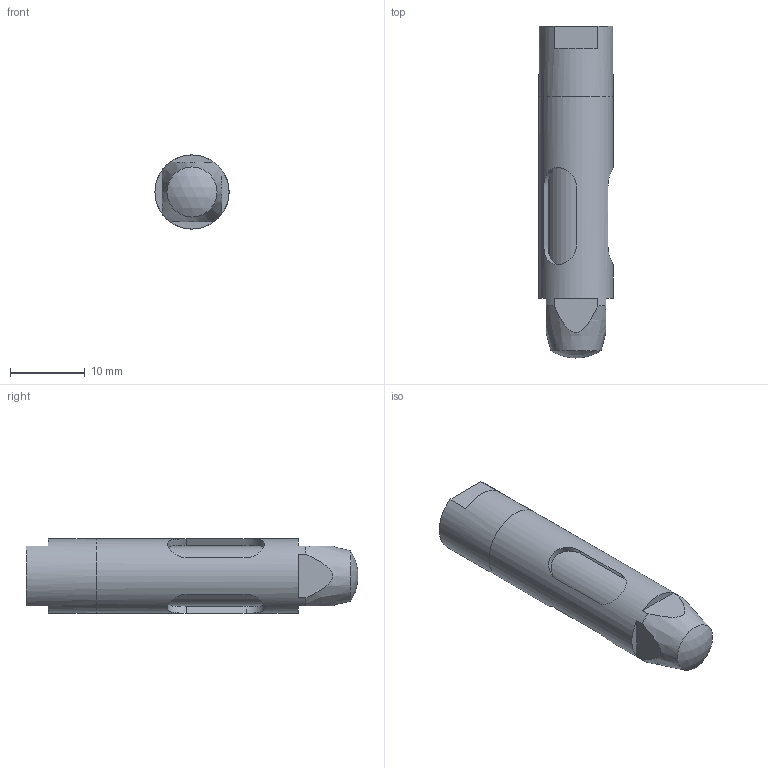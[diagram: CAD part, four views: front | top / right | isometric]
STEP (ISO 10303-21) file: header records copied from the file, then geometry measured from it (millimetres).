
FILE_DESCRIPTION(/* description */ (''),/* implementation_level */ '2;1');
FILE_NAME(/* name */ 'T:\Anwender\Praktikant\Tobias Könemund\Innengreifer\Parametrisch\G-GI010_vereinfacht.stp',/* time_stamp */ '2015-10-30T08:20:27+01:00',/* author */ ('Praktikant'),/* organization */ ('GRIP GmbH'),/* preprocessor_version */ 'ST-DEVELOPER v15.2',/* originating_system */ 'Autodesk Inventor 2014',/* authorisation */ '');
FILE_SCHEMA (('AUTOMOTIVE_DESIGN { 1 0 10303 214 3 1 1 }'));
Length unit declared in the file: millimetre
Products named in the file (3): G-GI010-2.1-1 Dorn_vereinfacht-11; G-GI010-1.1-1 Hülse_vereinfacht-08; Baugruppe_vereinfacht
Bounding box: 9.9 x 44.36 x 9.9 mm (x, y, z)
Volume: 2740.7 mm3; surface area: 2724.5 mm2
Topology: 2 solids, 2 shells, 37 faces, 95 edges, 63 vertices
Faces by surface type: plane 23, cylinder 11, cone 2, sphere 1
Full cylindrical faces by diameter (mm): 5 x1, 7.9 x1, 8.1 x1, 9.9 x2
Entity records: 1288 total; most frequent: CARTESIAN_POINT 392, DIRECTION 170, ORIENTED_EDGE 162, EDGE_CURVE 81, AXIS2_PLACEMENT_3D 63, VERTEX_POINT 57, EDGE_LOOP 52, LINE 44
